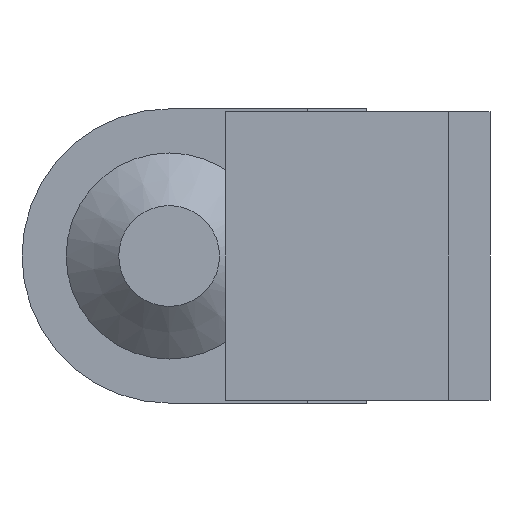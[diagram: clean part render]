
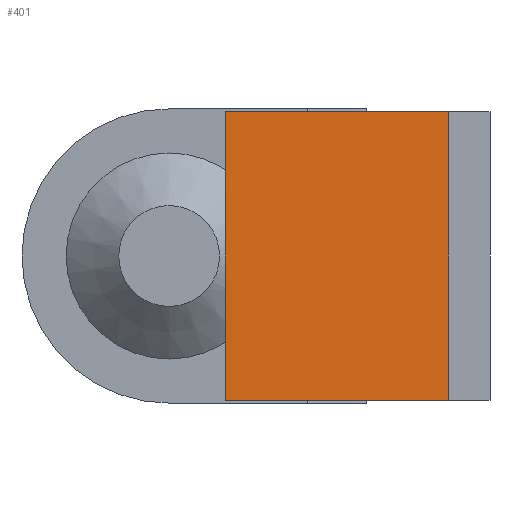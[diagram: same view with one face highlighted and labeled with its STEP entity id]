
A CAD part, left-side view. The second image highlights one B-rep face of the part: STEP entity #401.
In plain terms, the highlighted planar face has unit normal (-1, 0, 0) as drawn and (1, 0, 0) by its records, which use the part's own axes.
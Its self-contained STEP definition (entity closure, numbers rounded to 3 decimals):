
#46 = CARTESIAN_POINT ( 'NONE',  ( 83., 4.9, -9. ) ) ;
#62 = CARTESIAN_POINT ( 'NONE',  ( 83., -4.9, -9. ) ) ;
#157 = EDGE_CURVE ( 'NONE', #852, #1098, #1088, .T. ) ;
#234 = EDGE_CURVE ( 'NONE', #536, #1098, #261, .T. ) ;
#261 = LINE ( 'NONE', #1640, #1712 ) ;
#282 = VECTOR ( 'NONE', #1146, 1000. ) ;
#308 = CARTESIAN_POINT ( 'NONE',  ( 83., -4.9, -1.4 ) ) ;
#373 = ORIENTED_EDGE ( 'NONE', *, *, #1695, .F. ) ;
#401 = ADVANCED_FACE ( 'NONE', ( #534 ), #1741, .F. ) ;
#434 = AXIS2_PLACEMENT_3D ( 'NONE', #1352, #679, #1069 ) ;
#534 = FACE_OUTER_BOUND ( 'NONE', #1014, .T. ) ;
#536 = VERTEX_POINT ( 'NONE', #308 ) ;
#679 = DIRECTION ( 'NONE',  ( -1., 0., 0. ) ) ;
#692 = CARTESIAN_POINT ( 'NONE',  ( 83., 4.9, -9. ) ) ;
#698 = EDGE_CURVE ( 'NONE', #726, #536, #996, .T. ) ;
#726 = VERTEX_POINT ( 'NONE', #737 ) ;
#737 = CARTESIAN_POINT ( 'NONE',  ( 83., 4.9, -1.4 ) ) ;
#836 = DIRECTION ( 'NONE',  ( 0., -1., 0. ) ) ;
#851 = ORIENTED_EDGE ( 'NONE', *, *, #698, .T. ) ;
#852 = VERTEX_POINT ( 'NONE', #1192 ) ;
#947 = VECTOR ( 'NONE', #1141, 1000. ) ;
#996 = LINE ( 'NONE', #1408, #947 ) ;
#1014 = EDGE_LOOP ( 'NONE', ( #1346, #1325, #373, #851 ) ) ;
#1069 = DIRECTION ( 'NONE',  ( 0., 0., 1. ) ) ;
#1088 = LINE ( 'NONE', #692, #1547 ) ;
#1098 = VERTEX_POINT ( 'NONE', #62 ) ;
#1141 = DIRECTION ( 'NONE',  ( 0., -1., 0. ) ) ;
#1146 = DIRECTION ( 'NONE',  ( 0., 0., -1. ) ) ;
#1192 = CARTESIAN_POINT ( 'NONE',  ( 83., 4.9, -9. ) ) ;
#1257 = LINE ( 'NONE', #46, #282 ) ;
#1325 = ORIENTED_EDGE ( 'NONE', *, *, #157, .F. ) ;
#1346 = ORIENTED_EDGE ( 'NONE', *, *, #234, .T. ) ;
#1351 = DIRECTION ( 'NONE',  ( 0., 0., -1. ) ) ;
#1352 = CARTESIAN_POINT ( 'NONE',  ( 83., 4.9, -9. ) ) ;
#1408 = CARTESIAN_POINT ( 'NONE',  ( 83., 4.9, -1.4 ) ) ;
#1547 = VECTOR ( 'NONE', #836, 1000. ) ;
#1640 = CARTESIAN_POINT ( 'NONE',  ( 83., -4.9, -9. ) ) ;
#1695 = EDGE_CURVE ( 'NONE', #726, #852, #1257, .T. ) ;
#1712 = VECTOR ( 'NONE', #1351, 1000. ) ;
#1741 = PLANE ( 'NONE',  #434 ) ;
